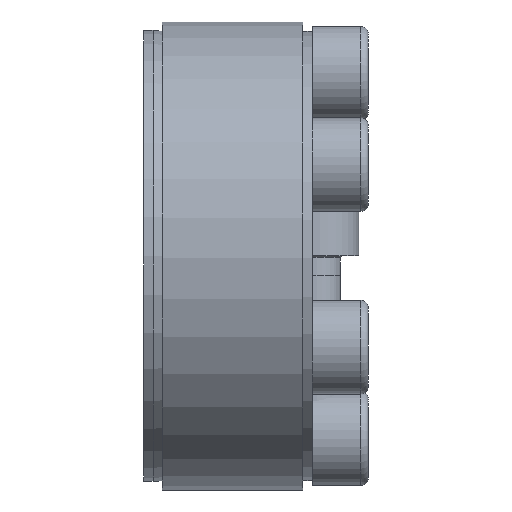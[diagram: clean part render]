
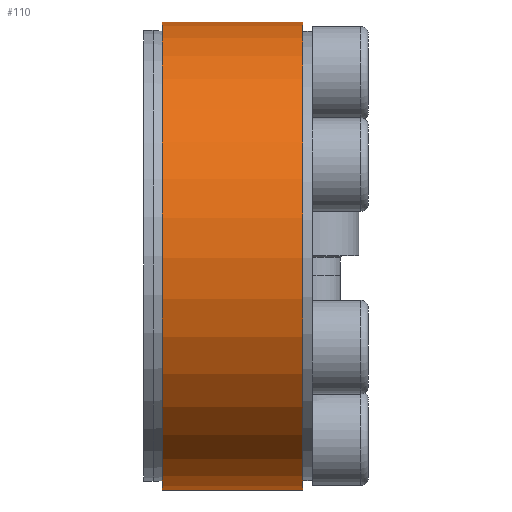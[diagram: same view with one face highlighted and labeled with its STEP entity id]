
A CAD part, left-side view. The second image highlights one B-rep face of the part: STEP entity #110.
In plain terms, the highlighted cylindrical face has radius 25 mm (diameter 50 mm), a partial arc.
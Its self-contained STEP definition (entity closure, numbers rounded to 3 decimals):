
#110 = ADVANCED_FACE( '', ( #232 ), #233, .T. );
#232 = FACE_OUTER_BOUND( '', #358, .T. );
#233 = CYLINDRICAL_SURFACE( '', #359, 25. );
#358 = EDGE_LOOP( '', ( #606, #607, #608, #609 ) );
#359 = AXIS2_PLACEMENT_3D( '', #610, #611, #612 );
#606 = ORIENTED_EDGE( '', *, *, #726, .F. );
#607 = ORIENTED_EDGE( '', *, *, #769, .T. );
#608 = ORIENTED_EDGE( '', *, *, #754, .T. );
#609 = ORIENTED_EDGE( '', *, *, #764, .F. );
#610 = CARTESIAN_POINT( '', ( 0., -60., 0. ) );
#611 = DIRECTION( '', ( 0., 1., 0. ) );
#612 = DIRECTION( '', ( 0., 0., -1. ) );
#726 = EDGE_CURVE( '', #887, #888, #889, .T. );
#754 = EDGE_CURVE( '', #919, #931, #933, .T. );
#764 = EDGE_CURVE( '', #888, #931, #949, .T. );
#769 = EDGE_CURVE( '', #887, #919, #955, .T. );
#887 = VERTEX_POINT( '', #1170 );
#888 = VERTEX_POINT( '', #1171 );
#889 = LINE( '', #1172, #1173 );
#919 = VERTEX_POINT( '', #1217 );
#931 = VERTEX_POINT( '', #1236 );
#933 = LINE( '', #1239, #1240 );
#949 = CIRCLE( '', #1256, 25. );
#955 = CIRCLE( '', #1262, 25. );
#1170 = CARTESIAN_POINT( '', ( 11.845, 16., 22.016 ) );
#1171 = CARTESIAN_POINT( '', ( 11.845, 1., 22.016 ) );
#1172 = CARTESIAN_POINT( '', ( 11.845, -60., 22.016 ) );
#1173 = VECTOR( '', #1351, 1000. );
#1217 = CARTESIAN_POINT( '', ( 13.144, 16., 21.266 ) );
#1236 = CARTESIAN_POINT( '', ( 13.144, 1., 21.266 ) );
#1239 = CARTESIAN_POINT( '', ( 13.144, -60., 21.266 ) );
#1240 = VECTOR( '', #1383, 1000. );
#1256 = AXIS2_PLACEMENT_3D( '', #1402, #1403, #1404 );
#1262 = AXIS2_PLACEMENT_3D( '', #1411, #1412, #1413 );
#1351 = DIRECTION( '', ( 0., -1., 0. ) );
#1383 = DIRECTION( '', ( 0., -1., 0. ) );
#1402 = CARTESIAN_POINT( '', ( 0., 1., 0. ) );
#1403 = DIRECTION( '', ( 0., -1., 0. ) );
#1404 = DIRECTION( '', ( 0., 0., -1. ) );
#1411 = CARTESIAN_POINT( '', ( 0., 16., 0. ) );
#1412 = DIRECTION( '', ( 0., -1., 0. ) );
#1413 = DIRECTION( '', ( 0., 0., -1. ) );
